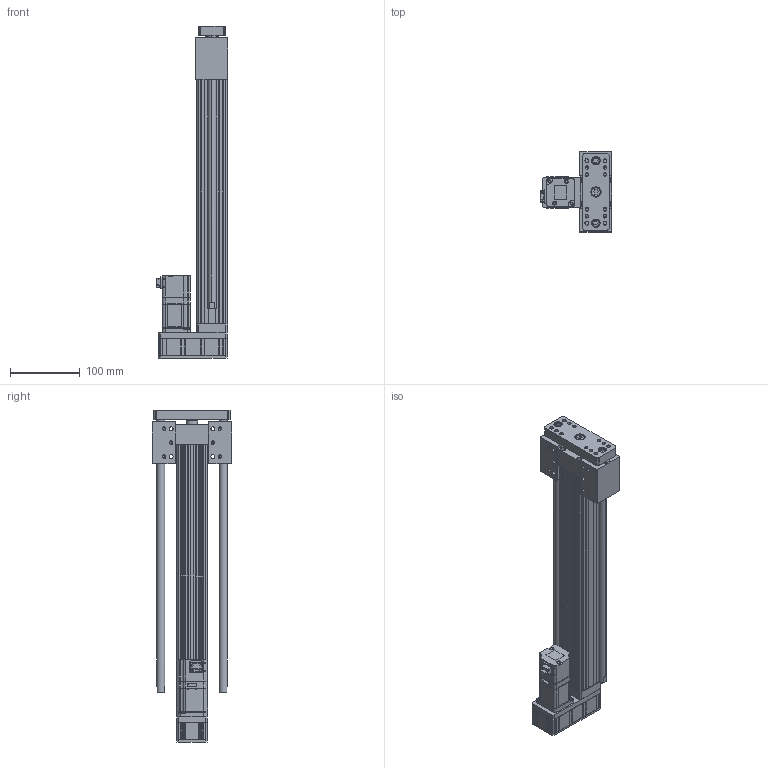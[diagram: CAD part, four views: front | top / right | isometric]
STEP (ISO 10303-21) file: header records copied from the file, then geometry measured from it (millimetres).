
FILE_DESCRIPTION (( 'STEP AP203' ), '1' );
FILE_NAME ('ANS045-HP300-05(10)-W10.STEP', '2019-02-14T03:05:49', ( 'user' ), ( '' ), 'SwSTEP 2.0', 'SolidWorks 2013', '' );
FILE_SCHEMA (( 'CONFIG_CONTROL_DESIGN' ));
Length unit declared in the file: millimetre
Products named in the file (4): SGMJV_01A_A21; ANS045-HP300-05(10)-W10; ANS045 HP300 VER2; ANS045 ROD ST300 H
Assembly tree (3 placements, depth 2):
  ANS045-HP300-05(10)-W10
    ANS045 HP300 VER2
    ANS045 ROD ST300 H
    SGMJV_01A_A21
Bounding box: 102.3 x 115 x 477.5 mm (x, y, z)
Volume: 1058751.5 mm3; surface area: 324036.5 mm2
Topology: 3 solids, 11 shells, 1245 faces, 3210 edges, 2044 vertices
Faces by surface type: plane 670, cylinder 431, cone 142, bspline 2
Entity records: 38032 total; most frequent: CARTESIAN_POINT 7187, ORIENTED_EDGE 6380, DIRECTION 6326, EDGE_CURVE 3190, LINE 2140, VECTOR 2140, AXIS2_PLACEMENT_3D 2093, VERTEX_POINT 2044
